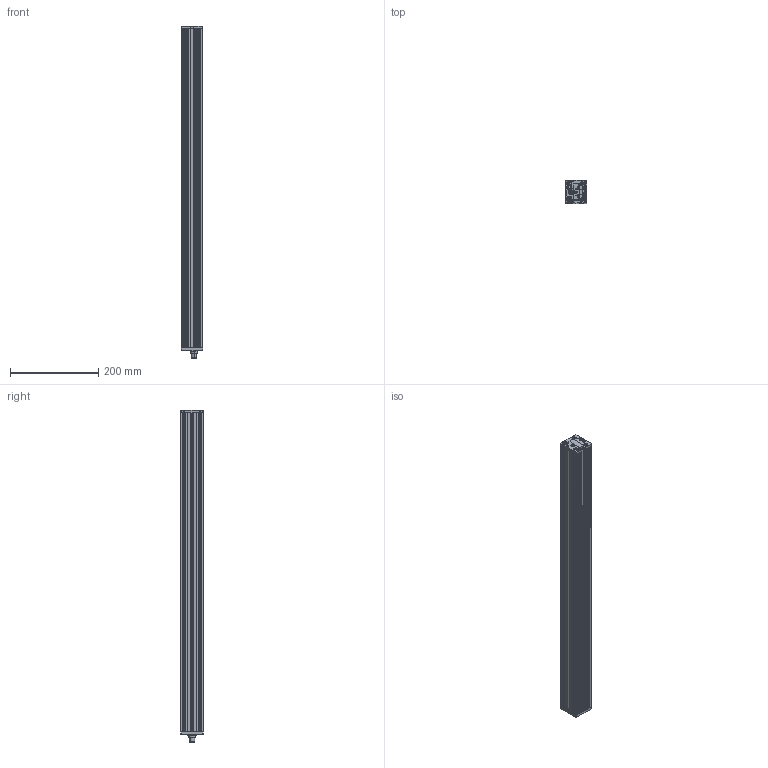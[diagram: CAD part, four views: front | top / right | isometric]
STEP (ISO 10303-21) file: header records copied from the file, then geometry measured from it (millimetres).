
FILE_DESCRIPTION (( 'STEP AP214' ), '1' );
FILE_NAME ('008823A.STEP', '2018-10-16T07:41:33', ( '' ), ( '' ), 'SwSTEP 2.0', 'SolidWorks 2018', '' );
FILE_SCHEMA (( 'AUTOMOTIVE_DESIGN' ));
Length unit declared in the file: millimetre
Products named in the file (8): 001161A723; 000096; 000958; 000605; 001596A723; 008769; 000959; 008823A
Assembly tree (15 placements, depth 2):
  008823A
    000958
    000096
    000959
    001596A723
    000605  x6
    008769  x4
    001161A723
Bounding box: 49 x 51.01 x 752.2 mm (x, y, z)
Volume: 776542.2 mm3; surface area: 614948.5 mm2
Topology: 17 solids, 17 shells, 3036 faces, 8235 edges, 5430 vertices
Faces by surface type: plane 1685, bspline 598, cylinder 549, cone 202, torus 2
Entity records: 132365 total; most frequent: CARTESIAN_POINT 61488, ORIENTED_EDGE 15488, DIRECTION 12237, EDGE_CURVE 7744, VECTOR 5203, LINE 5203, VERTEX_POINT 5141, AXIS2_PLACEMENT_3D 3517
